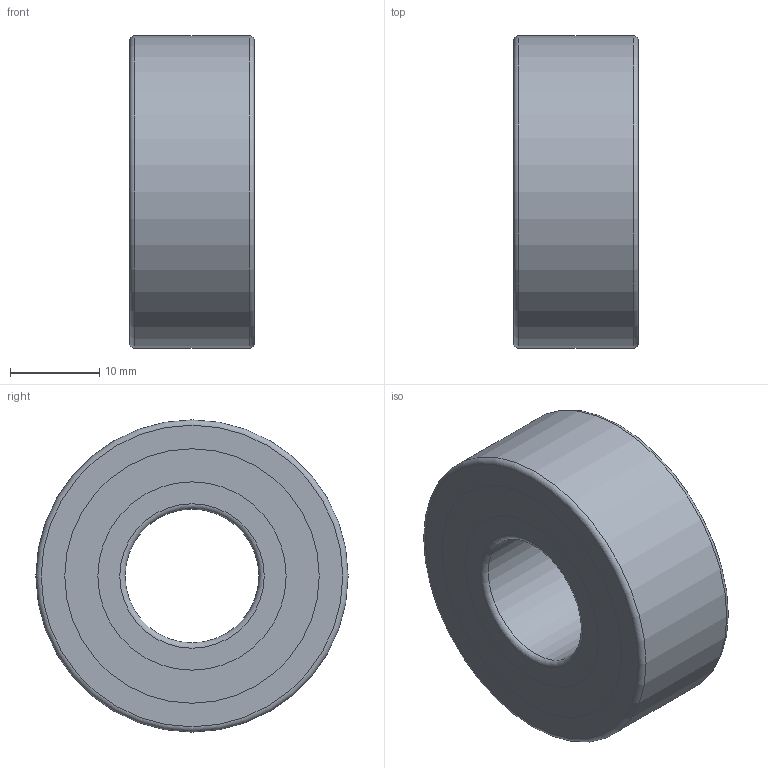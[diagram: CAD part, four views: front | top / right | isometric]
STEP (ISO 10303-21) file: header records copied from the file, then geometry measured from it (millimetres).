
FILE_DESCRIPTION(/* description */ (''),/* implementation_level */ '2;1');
FILE_NAME(/* name */ '2202-2RS.stp',/* time_stamp */ '2024-11-07T09:48:37+01:00',/* author */ ('OUPIONTEKM'),/* organization */ (''),/* preprocessor_version */ 'ST-DEVELOPER v20',/* originating_system */ 'Autodesk Inventor 2025',/* authorisation */ '');
FILE_SCHEMA (('AUTOMOTIVE_DESIGN { 1 0 10303 214 3 1 1 }'));
Length unit declared in the file: millimetre
Products named in the file (6): 2202; 2202-02; 2202-ball; 2202-01; 2202-cage22,23; RS
Assembly tree (17 placements, depth 2):
  2202
    2202-02
    2202-ball  x12
    2202-01
    2202-cage22,23  x2
    RS
Bounding box: 14 x 35 x 35 mm (x, y, z)
Volume: 7260.2 mm3; surface area: 10046.8 mm2
Topology: 18 solids, 18 shells, 106 faces, 285 edges, 190 vertices
Faces by surface type: cylinder 37, sphere 25, plane 24, torus 20
Full cylindrical faces by diameter (mm): 15 x1, 21.111 x5, 21.666 x2, 28.527 x4, 35 x1
Entity records: 2554 total; most frequent: CARTESIAN_POINT 778, DIRECTION 376, ORIENTED_EDGE 304, AXIS2_PLACEMENT_3D 182, EDGE_CURVE 152, VERTEX_POINT 104, CIRCLE 98, EDGE_LOOP 72
